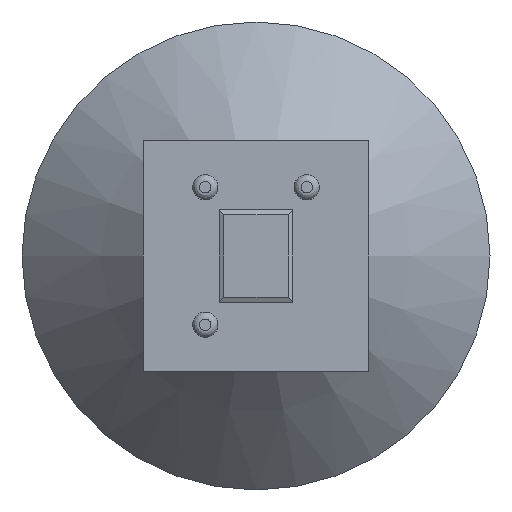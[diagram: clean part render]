
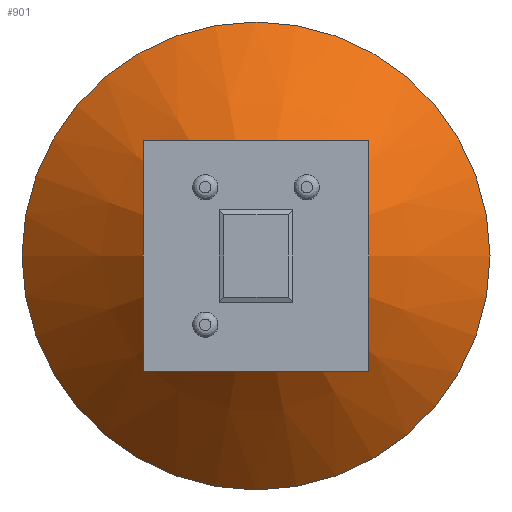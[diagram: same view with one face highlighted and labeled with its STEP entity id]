
A CAD part, front view. The second image highlights one B-rep face of the part: STEP entity #901.
In plain terms, the highlighted conical face has half-angle 45 degrees and reference radius 6.35 mm.
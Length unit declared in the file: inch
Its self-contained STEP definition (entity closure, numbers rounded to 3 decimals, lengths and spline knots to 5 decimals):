
#13=CONICAL_SURFACE('',#1020,0.25,0.785);
#159=FACE_OUTER_BOUND('',#232,.T.);
#232=EDGE_LOOP('',(#823,#824,#825));
#309=LINE('',#1615,#386);
#386=VECTOR('',#1289,0.25);
#420=CIRCLE('',#1019,0.5);
#491=VERTEX_POINT('',#1611);
#492=VERTEX_POINT('',#1614);
#602=EDGE_CURVE('',#491,#491,#420,.T.);
#603=EDGE_CURVE('',#491,#492,#309,.T.);
#823=ORIENTED_EDGE('',*,*,#602,.F.);
#824=ORIENTED_EDGE('',*,*,#603,.T.);
#825=ORIENTED_EDGE('',*,*,#603,.F.);
#901=ADVANCED_FACE('',(#159),#13,.T.);
#1019=AXIS2_PLACEMENT_3D('',#1612,#1285,#1286);
#1020=AXIS2_PLACEMENT_3D('',#1613,#1287,#1288);
#1285=DIRECTION('center_axis',(0.,1.,0.));
#1286=DIRECTION('ref_axis',(1.,0.,0.));
#1287=DIRECTION('center_axis',(0.,1.,0.));
#1288=DIRECTION('ref_axis',(-1.,0.,0.));
#1289=DIRECTION('',(-0.707,-0.707,0.));
#1611=CARTESIAN_POINT('',(0.7406,0.62499,0.24575));
#1612=CARTESIAN_POINT('Origin',(0.2406,0.62499,0.24575));
#1613=CARTESIAN_POINT('Origin',(0.2406,0.37499,0.24575));
#1614=CARTESIAN_POINT('',(0.2406,0.12499,0.24575));
#1615=CARTESIAN_POINT('',(0.4906,0.37499,0.24575));
